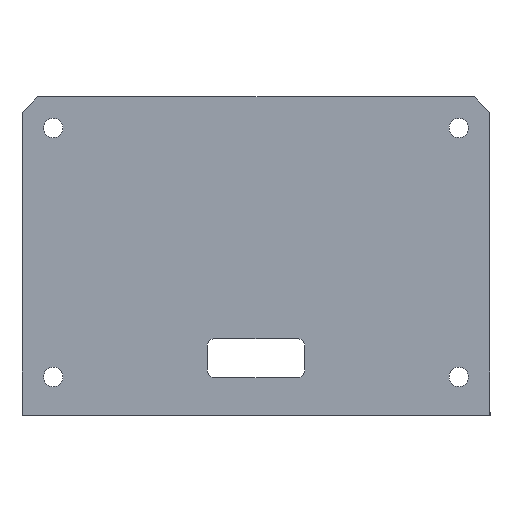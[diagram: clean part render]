
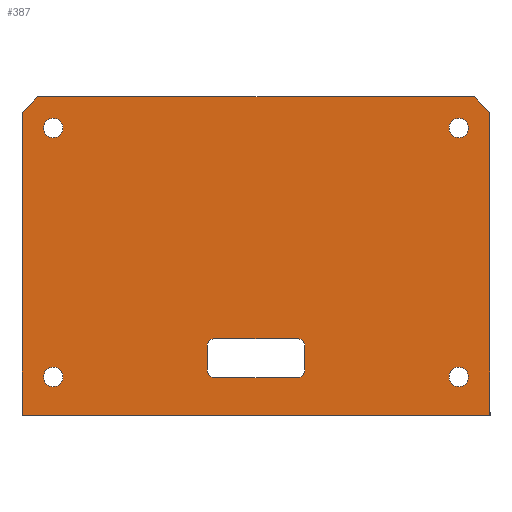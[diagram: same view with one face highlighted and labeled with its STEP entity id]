
A CAD part, top view. The second image highlights one B-rep face of the part: STEP entity #387.
In plain terms, the highlighted planar face has unit normal (0, 0, 1).
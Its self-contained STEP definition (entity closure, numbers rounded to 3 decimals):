
#23=FACE_BOUND('',#72,.T.);
#24=FACE_BOUND('',#73,.T.);
#25=FACE_BOUND('',#74,.T.);
#26=FACE_BOUND('',#75,.T.);
#27=FACE_BOUND('',#76,.T.);
#33=CIRCLE('',#422,1.25);
#34=CIRCLE('',#423,1.25);
#35=CIRCLE('',#424,1.);
#36=CIRCLE('',#425,1.);
#37=CIRCLE('',#426,1.);
#38=CIRCLE('',#427,1.);
#39=CIRCLE('',#428,1.25);
#40=CIRCLE('',#429,1.25);
#51=FACE_OUTER_BOUND('',#71,.T.);
#71=EDGE_LOOP('',(#273,#274,#275,#276,#277,#278));
#72=EDGE_LOOP('',(#279));
#73=EDGE_LOOP('',(#280));
#74=EDGE_LOOP('',(#281,#282,#283,#284,#285,#286,#287,#288));
#75=EDGE_LOOP('',(#289));
#76=EDGE_LOOP('',(#290));
#101=LINE('',#575,#139);
#103=LINE('',#579,#141);
#106=LINE('',#585,#144);
#107=LINE('',#587,#145);
#108=LINE('',#589,#146);
#109=LINE('',#590,#147);
#110=LINE('',#597,#148);
#111=LINE('',#601,#149);
#112=LINE('',#605,#150);
#113=LINE('',#609,#151);
#139=VECTOR('',#461,10.);
#141=VECTOR('',#465,10.);
#144=VECTOR('',#470,10.);
#145=VECTOR('',#471,10.);
#146=VECTOR('',#472,10.);
#147=VECTOR('',#473,10.);
#148=VECTOR('',#478,10.);
#149=VECTOR('',#481,10.);
#150=VECTOR('',#484,10.);
#151=VECTOR('',#487,10.);
#177=VERTEX_POINT('',#572);
#178=VERTEX_POINT('',#574);
#179=VERTEX_POINT('',#578);
#181=VERTEX_POINT('',#584);
#182=VERTEX_POINT('',#586);
#183=VERTEX_POINT('',#588);
#184=VERTEX_POINT('',#591);
#185=VERTEX_POINT('',#593);
#186=VERTEX_POINT('',#595);
#187=VERTEX_POINT('',#596);
#188=VERTEX_POINT('',#598);
#189=VERTEX_POINT('',#600);
#190=VERTEX_POINT('',#602);
#191=VERTEX_POINT('',#604);
#192=VERTEX_POINT('',#606);
#193=VERTEX_POINT('',#608);
#194=VERTEX_POINT('',#611);
#195=VERTEX_POINT('',#613);
#213=EDGE_CURVE('',#177,#178,#101,.T.);
#215=EDGE_CURVE('',#179,#178,#103,.F.);
#218=EDGE_CURVE('',#177,#181,#106,.T.);
#219=EDGE_CURVE('',#181,#182,#107,.F.);
#220=EDGE_CURVE('',#182,#183,#108,.T.);
#221=EDGE_CURVE('',#179,#183,#109,.T.);
#222=EDGE_CURVE('',#184,#184,#33,.F.);
#223=EDGE_CURVE('',#185,#185,#34,.F.);
#224=EDGE_CURVE('',#186,#187,#110,.T.);
#225=EDGE_CURVE('',#188,#187,#35,.F.);
#226=EDGE_CURVE('',#188,#189,#111,.F.);
#227=EDGE_CURVE('',#190,#189,#36,.F.);
#228=EDGE_CURVE('',#190,#191,#112,.T.);
#229=EDGE_CURVE('',#192,#191,#37,.F.);
#230=EDGE_CURVE('',#193,#192,#113,.F.);
#231=EDGE_CURVE('',#186,#193,#38,.F.);
#232=EDGE_CURVE('',#194,#194,#39,.F.);
#233=EDGE_CURVE('',#195,#195,#40,.F.);
#273=ORIENTED_EDGE('',*,*,#213,.F.);
#274=ORIENTED_EDGE('',*,*,#218,.T.);
#275=ORIENTED_EDGE('',*,*,#219,.T.);
#276=ORIENTED_EDGE('',*,*,#220,.T.);
#277=ORIENTED_EDGE('',*,*,#221,.F.);
#278=ORIENTED_EDGE('',*,*,#215,.T.);
#279=ORIENTED_EDGE('',*,*,#222,.T.);
#280=ORIENTED_EDGE('',*,*,#223,.T.);
#281=ORIENTED_EDGE('',*,*,#224,.T.);
#282=ORIENTED_EDGE('',*,*,#225,.F.);
#283=ORIENTED_EDGE('',*,*,#226,.T.);
#284=ORIENTED_EDGE('',*,*,#227,.F.);
#285=ORIENTED_EDGE('',*,*,#228,.T.);
#286=ORIENTED_EDGE('',*,*,#229,.F.);
#287=ORIENTED_EDGE('',*,*,#230,.F.);
#288=ORIENTED_EDGE('',*,*,#231,.F.);
#289=ORIENTED_EDGE('',*,*,#232,.T.);
#290=ORIENTED_EDGE('',*,*,#233,.T.);
#375=PLANE('',#421);
#387=ADVANCED_FACE('',(#51,#23,#24,#25,#26,#27),#375,.T.);
#421=AXIS2_PLACEMENT_3D('',#583,#468,#469);
#422=AXIS2_PLACEMENT_3D('',#592,#474,#475);
#423=AXIS2_PLACEMENT_3D('',#594,#476,#477);
#424=AXIS2_PLACEMENT_3D('',#599,#479,#480);
#425=AXIS2_PLACEMENT_3D('',#603,#482,#483);
#426=AXIS2_PLACEMENT_3D('',#607,#485,#486);
#427=AXIS2_PLACEMENT_3D('',#610,#488,#489);
#428=AXIS2_PLACEMENT_3D('',#612,#490,#491);
#429=AXIS2_PLACEMENT_3D('',#614,#492,#493);
#461=DIRECTION('',(0.707,0.707,0.));
#465=DIRECTION('',(1.,0.,0.));
#468=DIRECTION('center_axis',(0.,0.,1.));
#469=DIRECTION('ref_axis',(1.,0.,0.));
#470=DIRECTION('',(0.,-1.,0.));
#471=DIRECTION('',(-1.,0.,0.));
#472=DIRECTION('',(0.,1.,0.));
#473=DIRECTION('',(0.707,-0.707,0.));
#474=DIRECTION('center_axis',(0.,0.,1.));
#475=DIRECTION('ref_axis',(-1.,0.,0.));
#476=DIRECTION('center_axis',(0.,0.,1.));
#477=DIRECTION('ref_axis',(-1.,0.,0.));
#478=DIRECTION('',(0.,1.,0.));
#479=DIRECTION('center_axis',(0.,0.,-1.));
#480=DIRECTION('ref_axis',(-0.707,0.707,0.));
#481=DIRECTION('',(-1.,0.,0.));
#482=DIRECTION('center_axis',(0.,0.,-1.));
#483=DIRECTION('ref_axis',(0.707,0.707,0.));
#484=DIRECTION('',(0.,-1.,0.));
#485=DIRECTION('center_axis',(0.,0.,-1.));
#486=DIRECTION('ref_axis',(0.707,-0.707,0.));
#487=DIRECTION('',(-1.,0.,0.));
#488=DIRECTION('center_axis',(0.,0.,-1.));
#489=DIRECTION('ref_axis',(-0.707,-0.707,0.));
#490=DIRECTION('center_axis',(0.,0.,1.));
#491=DIRECTION('ref_axis',(-1.,0.,0.));
#492=DIRECTION('center_axis',(0.,0.,1.));
#493=DIRECTION('ref_axis',(-1.,0.,0.));
#572=CARTESIAN_POINT('',(-154.147,-39.63,-124.547));
#574=CARTESIAN_POINT('',(-152.147,-37.63,-124.547));
#575=CARTESIAN_POINT('',(-149.147,-34.63,-124.547));
#578=CARTESIAN_POINT('',(-96.147,-37.63,-124.547));
#579=CARTESIAN_POINT('',(-109.147,-37.63,-124.547));
#583=CARTESIAN_POINT('Origin',(-124.147,-51.63,-124.547));
#584=CARTESIAN_POINT('',(-154.147,-78.43,-124.547));
#585=CARTESIAN_POINT('',(-154.147,-38.13,-124.547));
#586=CARTESIAN_POINT('',(-94.147,-78.43,-124.547));
#587=CARTESIAN_POINT('',(-139.147,-78.43,-124.547));
#588=CARTESIAN_POINT('',(-94.147,-39.63,-124.547));
#589=CARTESIAN_POINT('',(-94.147,-65.13,-124.547));
#590=CARTESIAN_POINT('',(-99.147,-34.63,-124.547));
#591=CARTESIAN_POINT('',(-148.897,-41.63,-124.547));
#592=CARTESIAN_POINT('Origin',(-150.147,-41.63,-124.547));
#593=CARTESIAN_POINT('',(-96.897,-41.63,-124.547));
#594=CARTESIAN_POINT('Origin',(-98.147,-41.63,-124.547));
#595=CARTESIAN_POINT('',(-130.425,-72.63,-124.547));
#596=CARTESIAN_POINT('',(-130.425,-69.63,-124.547));
#597=CARTESIAN_POINT('',(-130.425,-65.13,-124.547));
#598=CARTESIAN_POINT('',(-129.425,-68.63,-124.547));
#599=CARTESIAN_POINT('Origin',(-129.425,-69.63,-124.547));
#600=CARTESIAN_POINT('',(-118.868,-68.63,-124.547));
#601=CARTESIAN_POINT('',(-127.286,-68.63,-124.547));
#602=CARTESIAN_POINT('',(-117.868,-69.63,-124.547));
#603=CARTESIAN_POINT('Origin',(-118.868,-69.63,-124.547));
#604=CARTESIAN_POINT('',(-117.868,-72.63,-124.547));
#605=CARTESIAN_POINT('',(-117.868,-62.63,-124.547));
#606=CARTESIAN_POINT('',(-118.868,-73.63,-124.547));
#607=CARTESIAN_POINT('Origin',(-118.868,-72.63,-124.547));
#608=CARTESIAN_POINT('',(-129.425,-73.63,-124.547));
#609=CARTESIAN_POINT('',(-127.286,-73.63,-124.547));
#610=CARTESIAN_POINT('Origin',(-129.425,-72.63,-124.547));
#611=CARTESIAN_POINT('',(-96.897,-73.53,-124.547));
#612=CARTESIAN_POINT('Origin',(-98.147,-73.53,-124.547));
#613=CARTESIAN_POINT('',(-148.897,-73.53,-124.547));
#614=CARTESIAN_POINT('Origin',(-150.147,-73.53,-124.547));
